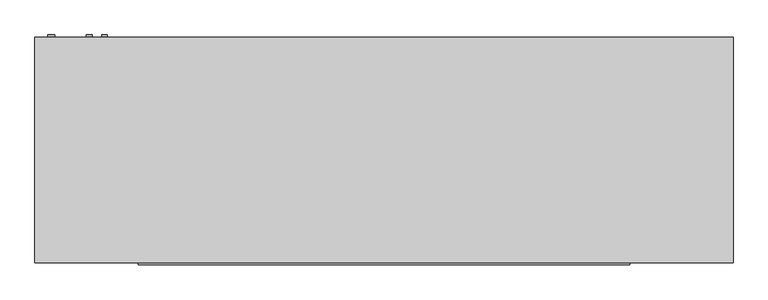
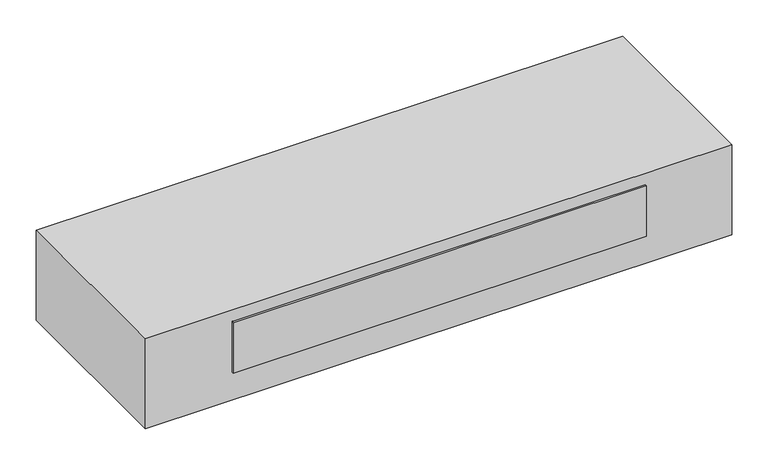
"""IFC4 building model written with IfcOpenShell, lengths in millimetres: proxy geometry, Exposed_Horizontal_Fan_Coil_Unit_-_42CGB_-_CARRIER_-_2-Pipe_Cool-EHeat_FS-BR_LH_2022 : Size 10 - 277v/60Hz/1Ph - 4 Row 8.0kW."""

from ifc_helpers import new_model, si_unit, point, frame, frame_2d, origin, place, context, project, spatial, polyline, circle_curve, trimmed, segment, composite_curve, outline, extrude, source, transform, mapped, element, save


def mechanical_equipment_69ed5b6a(model_context):
    return source(origin(), model_context, "Body", "SweptSolid", [
        extrude(outline(composite_curve([segment(trimmed(circle_curve(frame_2d((-60.325, -600.075)), 7.9375), [point((-60.325, -592.1375))], [point((-60.325, -608.0125))], False, "CARTESIAN"), True, "CONTINUOUS"), segment(trimmed(circle_curve(frame_2d((-60.325, -600.075)), 7.9375), [point((-60.325, -608.0125))], [point((-60.325, -592.1375))], False, "CARTESIAN"), True, "CONTINUOUS")], self_intersect=False)), frame((0.0, 65.0875, 0.0), z_axis=(0.0, 1.0, 0.0), x_axis=(0.0, 0.0, 1.0)), (0.0, 0.0, 1.0), 6.35),
        extrude(outline(composite_curve([segment(trimmed(circle_curve(frame_2d((-95.25, -641.35)), 7.9375), [point((-95.25, -633.4125))], [point((-95.25, -649.2875))], False, "CARTESIAN"), True, "CONTINUOUS"), segment(trimmed(circle_curve(frame_2d((-95.25, -641.35)), 7.9375), [point((-95.25, -649.2875))], [point((-95.25, -633.4125))], False, "CARTESIAN"), True, "CONTINUOUS")], self_intersect=False)), frame((0.0, 65.0875, 0.0), z_axis=(0.0, 1.0, 0.0), x_axis=(0.0, 0.0, 1.0)), (0.0, 0.0, 1.0), 6.35),
        extrude(outline(composite_curve([segment(trimmed(circle_curve(frame_2d((-260.35, -742.95)), 9.525), [point((-260.35, -733.425))], [point((-260.35, -752.475))], False, "CARTESIAN"), True, "CONTINUOUS"), segment(trimmed(circle_curve(frame_2d((-260.35, -742.95)), 9.525), [point((-260.35, -752.475))], [point((-260.35, -733.425))], False, "CARTESIAN"), True, "CONTINUOUS")], self_intersect=False)), frame((0.0, 65.0875, 0.0), z_axis=(0.0, 1.0, 0.0), x_axis=(0.0, 0.0, 1.0)), (0.0, 0.0, 1.0), 6.35),
        extrude(outline(polyline([(-787.4, 65.0875), (1092.2, 65.0875), (1092.2, -541.3375), (-787.4, -541.3375), (-787.4, 65.0875)])), frame((0.0, 0.0, -304.8), z_axis=(0.0, 0.0, 1.0), x_axis=(1.0, 0.0, 0.0)), (0.0, 0.0, 1.0), 304.8),
        extrude(outline(polyline([(814.3875, -547.6875), (-509.5875, -547.6875), (-509.5875, -541.3375), (814.3875, -541.3375), (814.3875, -547.6875)])), frame((0.0, 0.0, -209.55), z_axis=(0.0, 0.0, 1.0), x_axis=(1.0, 0.0, 0.0)), (0.0, 0.0, 1.0), 171.45),
        extrude(outline(polyline([(844.55, -11.1125), (844.55, -265.1125), (-539.75, -265.1125), (-539.75, -11.1125), (844.55, -11.1125)])), frame((0.0, 0.0, -311.15), z_axis=(0.0, 0.0, 1.0), x_axis=(1.0, 0.0, 0.0)), (0.0, 0.0, 1.0), 6.35),
    ])


if __name__ == "__main__":
    model = new_model("IFC4")
    model_context = context("Model", 3, world=origin())
    ifc_project = project(units=[si_unit("LENGTHUNIT", "METRE", prefix="MILLI")], contexts=[model_context])
    site = spatial("IfcSite", under=ifc_project)
    building = spatial("IfcBuilding", under=site)
    placement = place(None, origin())
    mechanical_equipment_shape = mechanical_equipment_69ed5b6a(model_context)
    element("IfcBuildingElementProxy", 1, Name="Exposed_Horizontal_Fan_Coil_Unit_-_42CGB_-_CARRIER_-_2-Pipe_Cool-EHeat_FS-BR_LH_2022 : Size 10 - 277v/60Hz/1Ph - 4 Row 8.0kW", ObjectType="Exposed_Horizontal_Fan_Coil_Unit_-_42CGB_-_CARRIER_-_2-Pipe_Cool-EHeat_FS-BR_LH_2022 : Size 10 - 277v/60Hz/1Ph - 4 Row 8.0kW", at=placement, inside=building, context=model_context, shape_type="MappedRepresentation", body=[
        mapped(mechanical_equipment_shape, transform((0.0, 0.0, 0.0), x_axis=(1.0, 0.0, 0.0), y_axis=(0.0, 1.0, 0.0), z_axis=(0.0, 0.0, 1.0))),
    ])
    save(model, "model.ifc")
